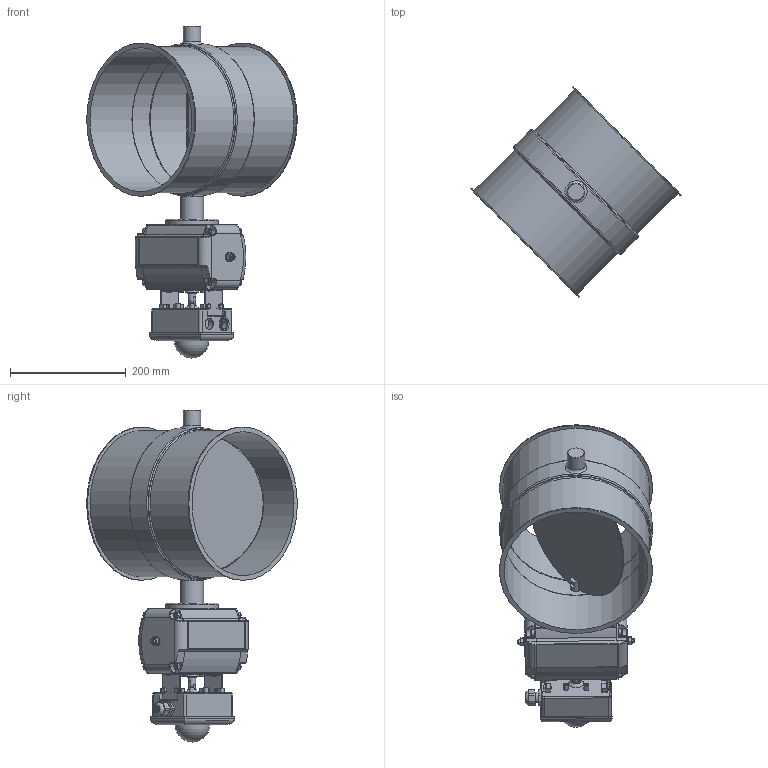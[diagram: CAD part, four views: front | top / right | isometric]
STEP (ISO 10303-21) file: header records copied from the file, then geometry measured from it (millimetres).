
FILE_DESCRIPTION((''),'2;1');
FILE_NAME('U:\Wolfgang\Marcel-3D\fertig\Kapitel 8\2521212.stp','2012-01-13T11:14:13',('iwienholt'),(''),'Autodesk Inventor 2010','Autodesk Inventor 2010','');
FILE_SCHEMA(('AUTOMOTIVE_DESIGN { 1 0 10303 214 1 1 1 1 }'));
Length unit declared in the file: millimetre
Products named in the file (21): 2521212; Bolzen D20; Scheibe250b; 2521210-1; Antrieb Flowserve D20; Pneumatischer SchwenkantriebS85D-2; Body; roter Verschluss; A1 Schwenkantrieb S85D; Body S085D; DIN EN ISO 4018 M5x10; DIN 125-1 A A 13; End Cap L85; End Cap R85; DIN 125-1 A A 8,4; DIN 916 M8  x  40; DIN 555 - ersetzt durch DIN EN 24034 M8; DIN EN ISO 4762 M6 x 12; Halterung; Deckel2; BuchseD20 90-50
Assembly tree (40 placements, depth 5):
  2521212
    Bolzen D20  x2
    Scheibe250b
    2521210-1
    Antrieb Flowserve D20
      Pneumatischer SchwenkantriebS85D-2
        Body
        roter Verschluss
        A1 Schwenkantrieb S85D
          Body S085D
          DIN EN ISO 4018 M5x10  x4
          DIN 125-1 A A 13  x2
          End Cap L85
          End Cap R85
          DIN 125-1 A A 8,4  x2
          DIN 916 M8  x  40  x2
          DIN 555 - ersetzt durch DIN EN 24034 M8  x2
          DIN EN ISO 4762 M6 x 12  x8
        Halterung  x2
        DIN EN ISO 4018 M5x10  x4
        Deckel2
      BuchseD20 90-50
Bounding box: 364.15 x 364.17 x 574 mm (x, y, z)
Volume: 3049007.4 mm3; surface area: 881977.6 mm2
Topology: 39 solids, 39 shells, 904 faces, 2097 edges, 1328 vertices
Faces by surface type: plane 450, cylinder 203, bspline 104, cone 104, torus 42, sphere 1
Full cylindrical faces by diameter (mm): 3.242 x4, 5 x10, 6 x12, 6.647 x4, 8 x6, 8.376 x1, 8.4 x2, 10 x10, 11.9 x2, 12.5 x1, 13 x5, 14 x1, 16 x2, 17 x1, 17.79 x2, 18 x3, 20 x6, 20.5 x1, 22 x1, 24 x3, 28.5 x1, 30 x3, 40 x3, 90 x1, 249 x3, 250 x1, 253 x2, 258 x1, 259 x1, 263 x1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
Entity records: 19811 total; most frequent: CARTESIAN_POINT 5781, DIRECTION 2794, ORIENTED_EDGE 2484, EDGE_CURVE 1242, AXIS2_PLACEMENT_3D 1089, VERTEX_POINT 872, EDGE_LOOP 872, VECTOR 616
